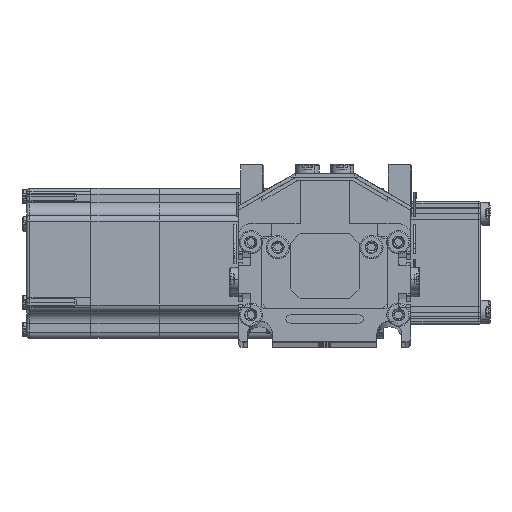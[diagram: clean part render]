
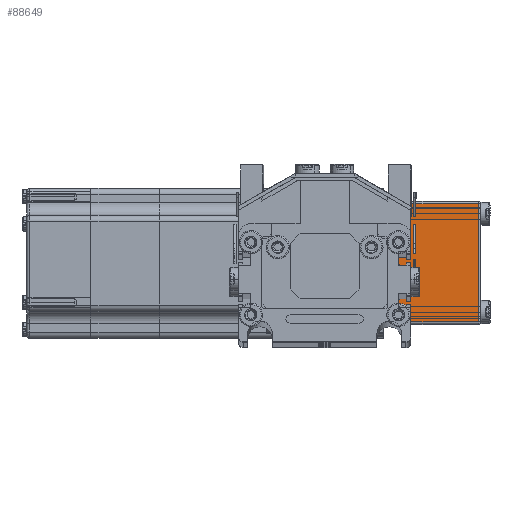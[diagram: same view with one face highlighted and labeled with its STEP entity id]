
A CAD part, top view. The second image highlights one B-rep face of the part: STEP entity #88649.
In plain terms, the highlighted planar face has unit normal (0, 0, 1) as drawn and (-1, 0, 0) by its records, which use the part's own axes.
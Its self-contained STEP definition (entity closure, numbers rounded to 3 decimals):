
#88572 = EDGE_CURVE ( 'NONE', #89570, #89569, #132078, .T. ) ;
#88593 = EDGE_LOOP ( 'NONE', ( #89517, #88658, #88654, #89520 ) ) ;
#88649 = ADVANCED_FACE ( 'NONE', ( #131628 ), #131810, .F. ) ;
#88650 = EDGE_CURVE ( 'NONE', #89569, #89533, #131802, .T. ) ;
#88654 = ORIENTED_EDGE ( 'NONE', *, *, #88660, .T. ) ;
#88658 = ORIENTED_EDGE ( 'NONE', *, *, #88650, .T. ) ;
#88660 = EDGE_CURVE ( 'NONE', #89533, #88673, #131773, .T. ) ;
#88673 = VERTEX_POINT ( 'NONE', #131791 ) ;
#89275 = EDGE_CURVE ( 'NONE', #88673, #89570, #155887, .T. ) ;
#89517 = ORIENTED_EDGE ( 'NONE', *, *, #88572, .T. ) ;
#89520 = ORIENTED_EDGE ( 'NONE', *, *, #89275, .T. ) ;
#89533 = VERTEX_POINT ( 'NONE', #134602 ) ;
#89569 = VERTEX_POINT ( 'NONE', #134381 ) ;
#89570 = VERTEX_POINT ( 'NONE', #134247 ) ;
#131626 = CARTESIAN_POINT ( 'NONE',  ( -50., 25., 39.5 ) ) ;
#131628 = FACE_OUTER_BOUND ( 'NONE', #88593, .T. ) ;
#131758 = DIRECTION ( 'NONE',  ( 0., 1., 0. ) ) ;
#131769 = VECTOR ( 'NONE', #131758, 1000. ) ;
#131771 = CARTESIAN_POINT ( 'NONE',  ( -50., 25., 38.5 ) ) ;
#131773 = LINE ( 'NONE', #131771, #131769 ) ;
#131785 = DIRECTION ( 'NONE',  ( 0., 0., 1. ) ) ;
#131787 = VECTOR ( 'NONE', #131785, 1000. ) ;
#131788 = CARTESIAN_POINT ( 'NONE',  ( -50., -24., 39.5 ) ) ;
#131791 = CARTESIAN_POINT ( 'NONE',  ( -50., 24., 38.5 ) ) ;
#131796 = DIRECTION ( 'NONE',  ( 0., 1., 0. ) ) ;
#131797 = DIRECTION ( 'NONE',  ( 1., 0., 0. ) ) ;
#131802 = LINE ( 'NONE', #131788, #131787 ) ;
#131810 = PLANE ( 'NONE',  #131985 ) ;
#131985 = AXIS2_PLACEMENT_3D ( 'NONE', #131626, #131797, #131796 ) ;
#132073 = DIRECTION ( 'NONE',  ( 0., -1., 0. ) ) ;
#132075 = VECTOR ( 'NONE', #132073, 1000. ) ;
#132076 = CARTESIAN_POINT ( 'NONE',  ( -50., 25., 0. ) ) ;
#132078 = LINE ( 'NONE', #132076, #132075 ) ;
#134247 = CARTESIAN_POINT ( 'NONE',  ( -50., 24., 0. ) ) ;
#134381 = CARTESIAN_POINT ( 'NONE',  ( -50., -24., 0. ) ) ;
#134602 = CARTESIAN_POINT ( 'NONE',  ( -50., -24., 38.5 ) ) ;
#155882 = DIRECTION ( 'NONE',  ( 0., 0., -1. ) ) ;
#155883 = VECTOR ( 'NONE', #155882, 1000. ) ;
#155885 = CARTESIAN_POINT ( 'NONE',  ( -50., 24., 39.5 ) ) ;
#155887 = LINE ( 'NONE', #155885, #155883 ) ;
